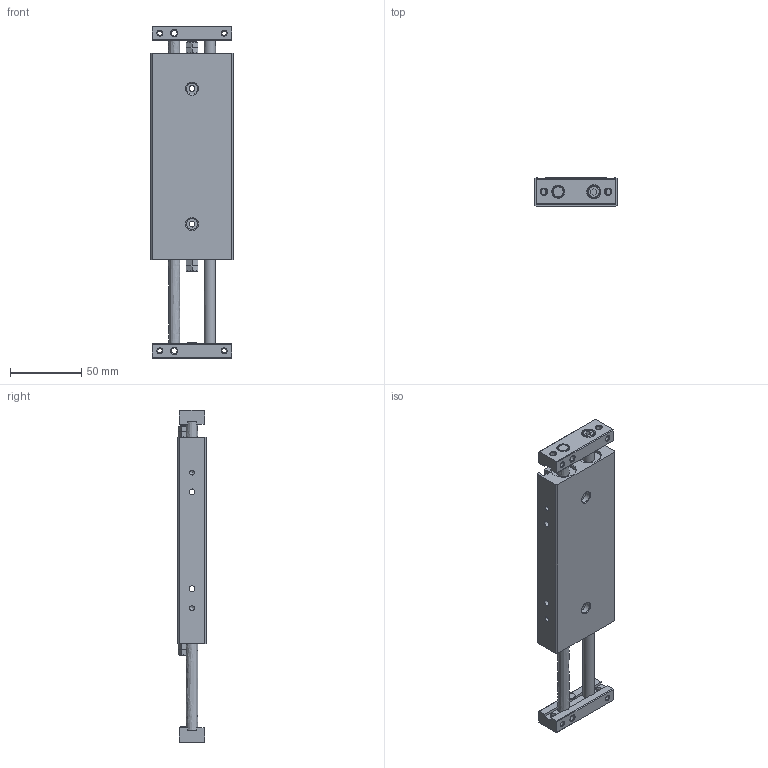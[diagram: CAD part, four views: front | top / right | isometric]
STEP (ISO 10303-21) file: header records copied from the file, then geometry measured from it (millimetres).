
FILE_DESCRIPTION((''),'2;1');
FILE_NAME('I:\3D電子目錄\氣缸\STX\STX\STX16\STX16x50.stp','2007-10-01T17:18:24',('Administrator'),(''),'Autodesk Inventor 11','Autodesk Inventor 11','');
FILE_SCHEMA(('AUTOMOTIVE_DESIGN { 1 0 10303 214 1 1 1 1 }'));
Length unit declared in the file: millimetre
Products named in the file (1): STX16
Bounding box: 58 x 20 x 233 mm (x, y, z)
Volume: 178184.5 mm3; surface area: 44781.8 mm2
Topology: 1 solids, 1 shells, 267 faces, 674 edges, 423 vertices
Faces by surface type: plane 130, cone 76, bspline 36, cylinder 21, torus 4
Full cylindrical faces by diameter (mm): 3.242 x2, 6 x2, 8 x6, 8.2 x2, 8.5 x2, 9 x2, 17 x2, 18 x2
Entity records: 8177 total; most frequent: CARTESIAN_POINT 2631, ORIENTED_EDGE 1088, DIRECTION 1066, EDGE_CURVE 544, EDGE_LOOP 414, AXIS2_PLACEMENT_3D 403, VERTEX_POINT 380, FACE_OUTER_BOUND 266
